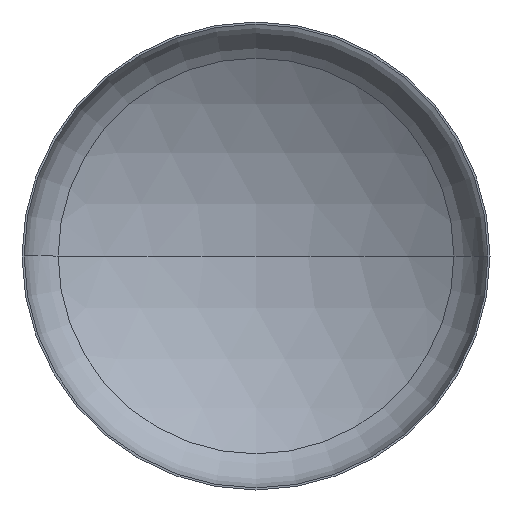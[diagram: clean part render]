
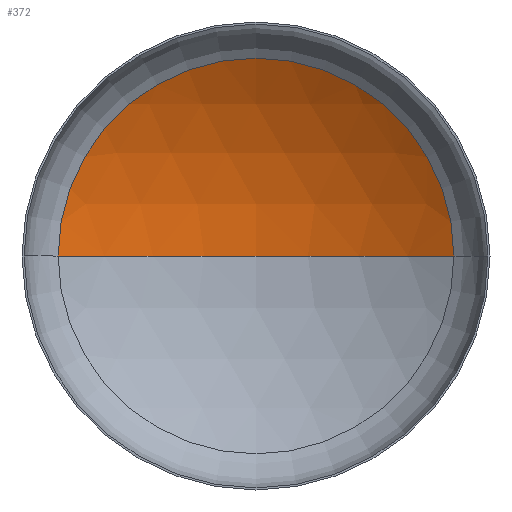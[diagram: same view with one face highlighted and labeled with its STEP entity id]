
A CAD part, front view. The second image highlights one B-rep face of the part: STEP entity #372.
In plain terms, the highlighted spherical face has radius 2720 mm.
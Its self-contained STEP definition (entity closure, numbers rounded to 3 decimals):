
#3 = AXIS2_PLACEMENT_3D ( 'NONE', #119, #175, #139 ) ;
#22 = VERTEX_POINT ( 'NONE', #245 ) ;
#25 = EDGE_LOOP ( 'NONE', ( #118, #87, #80 ) ) ;
#26 = VERTEX_POINT ( 'NONE', #374 ) ;
#29 = AXIS2_PLACEMENT_3D ( 'NONE', #304, #157, #159 ) ;
#32 = AXIS2_PLACEMENT_3D ( 'NONE', #171, #172, #337 ) ;
#48 = VERTEX_POINT ( 'NONE', #241 ) ;
#80 = ORIENTED_EDGE ( 'NONE', *, *, #351, .T. ) ;
#87 = ORIENTED_EDGE ( 'NONE', *, *, #353, .T. ) ;
#118 = ORIENTED_EDGE ( 'NONE', *, *, #389, .F. ) ;
#119 = CARTESIAN_POINT ( 'NONE',  ( 0., -1818.444, 0. ) ) ;
#134 = SPHERICAL_SURFACE ( 'NONE', #3, 2720. ) ;
#139 = DIRECTION ( 'NONE',  ( -1., 0., 0. ) ) ;
#157 = DIRECTION ( 'NONE',  ( 0., 0., -1. ) ) ;
#159 = DIRECTION ( 'NONE',  ( -1., 0., 0. ) ) ;
#166 = DIRECTION ( 'NONE',  ( 0., 0., 1. ) ) ;
#171 = CARTESIAN_POINT ( 'NONE',  ( 0., 490.699, 0. ) ) ;
#172 = DIRECTION ( 'NONE',  ( 0., -1., 0. ) ) ;
#175 = DIRECTION ( 'NONE',  ( 0., 0., -1. ) ) ;
#228 = AXIS2_PLACEMENT_3D ( 'NONE', #316, #166, #343 ) ;
#241 = CARTESIAN_POINT ( 'NONE',  ( 0., 901.556, 0. ) ) ;
#245 = CARTESIAN_POINT ( 'NONE',  ( -1437.449, 490.699, 0. ) ) ;
#262 = CIRCLE ( 'NONE', #228, 2720. ) ;
#267 = FACE_OUTER_BOUND ( 'NONE', #25, .T. ) ;
#273 = CIRCLE ( 'NONE', #29, 2720. ) ;
#304 = CARTESIAN_POINT ( 'NONE',  ( 0., -1818.444, 0. ) ) ;
#316 = CARTESIAN_POINT ( 'NONE',  ( 0., -1818.444, 0. ) ) ;
#337 = DIRECTION ( 'NONE',  ( 1., 0., 0. ) ) ;
#343 = DIRECTION ( 'NONE',  ( 1., 0., 0. ) ) ;
#346 = CIRCLE ( 'NONE', #32, 1437.449 ) ;
#351 = EDGE_CURVE ( 'NONE', #26, #22, #346, .T. ) ;
#353 = EDGE_CURVE ( 'NONE', #48, #26, #273, .T. ) ;
#372 = ADVANCED_FACE ( 'NONE', ( #267 ), #134, .F. ) ;
#374 = CARTESIAN_POINT ( 'NONE',  ( 1437.449, 490.699, 0. ) ) ;
#389 = EDGE_CURVE ( 'NONE', #48, #22, #262, .T. ) ;
